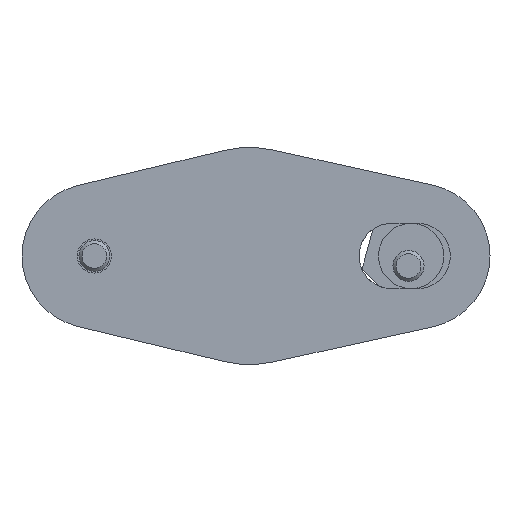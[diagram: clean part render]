
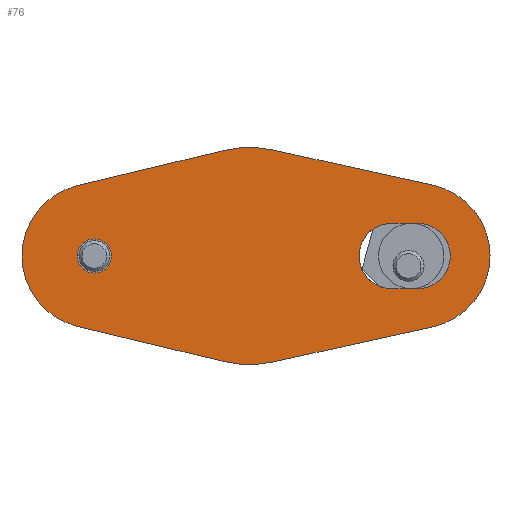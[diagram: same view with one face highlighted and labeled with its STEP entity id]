
A CAD part, front view. The second image highlights one B-rep face of the part: STEP entity #76.
In plain terms, the highlighted planar face has unit normal (0, -1, 0).
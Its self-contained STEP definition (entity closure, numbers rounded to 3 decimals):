
#76 = ADVANCED_FACE( '', ( #143, #144, #145 ), #146, .F. );
#143 = FACE_BOUND( '', #297, .T. );
#144 = FACE_BOUND( '', #298, .T. );
#145 = FACE_OUTER_BOUND( '', #299, .T. );
#146 = PLANE( '', #300 );
#297 = EDGE_LOOP( '', ( #459 ) );
#298 = EDGE_LOOP( '', ( #460, #461, #462, #463 ) );
#299 = EDGE_LOOP( '', ( #464, #465, #466, #467, #468, #469, #470, #471 ) );
#300 = AXIS2_PLACEMENT_3D( '', #472, #473, #474 );
#459 = ORIENTED_EDGE( '', *, *, #914, .T. );
#460 = ORIENTED_EDGE( '', *, *, #915, .T. );
#461 = ORIENTED_EDGE( '', *, *, #916, .T. );
#462 = ORIENTED_EDGE( '', *, *, #917, .T. );
#463 = ORIENTED_EDGE( '', *, *, #918, .T. );
#464 = ORIENTED_EDGE( '', *, *, #919, .F. );
#465 = ORIENTED_EDGE( '', *, *, #920, .F. );
#466 = ORIENTED_EDGE( '', *, *, #921, .F. );
#467 = ORIENTED_EDGE( '', *, *, #922, .F. );
#468 = ORIENTED_EDGE( '', *, *, #923, .F. );
#469 = ORIENTED_EDGE( '', *, *, #924, .F. );
#470 = ORIENTED_EDGE( '', *, *, #925, .F. );
#471 = ORIENTED_EDGE( '', *, *, #926, .F. );
#472 = CARTESIAN_POINT( '', ( -30., 0., 0. ) );
#473 = DIRECTION( '', ( 0., 1., 0. ) );
#474 = DIRECTION( '', ( 0., 0., 1. ) );
#914 = EDGE_CURVE( '', #1055, #1055, #1056, .T. );
#915 = EDGE_CURVE( '', #1057, #1058, #1059, .T. );
#916 = EDGE_CURVE( '', #1058, #1060, #1061, .T. );
#917 = EDGE_CURVE( '', #1060, #1062, #1063, .T. );
#918 = EDGE_CURVE( '', #1062, #1057, #1064, .T. );
#919 = EDGE_CURVE( '', #1065, #1066, #1067, .T. );
#920 = EDGE_CURVE( '', #1068, #1065, #1069, .T. );
#921 = EDGE_CURVE( '', #1070, #1068, #1071, .T. );
#922 = EDGE_CURVE( '', #1072, #1070, #1073, .T. );
#923 = EDGE_CURVE( '', #1074, #1072, #1075, .T. );
#924 = EDGE_CURVE( '', #1076, #1074, #1077, .T. );
#925 = EDGE_CURVE( '', #1078, #1076, #1079, .T. );
#926 = EDGE_CURVE( '', #1066, #1078, #1080, .T. );
#1055 = VERTEX_POINT( '', #1287 );
#1056 = CIRCLE( '', #1288, 3.3 );
#1057 = VERTEX_POINT( '', #1289 );
#1058 = VERTEX_POINT( '', #1290 );
#1059 = LINE( '', #1291, #1292 );
#1060 = VERTEX_POINT( '', #1293 );
#1061 = CIRCLE( '', #1294, 6.325 );
#1062 = VERTEX_POINT( '', #1295 );
#1063 = LINE( '', #1296, #1297 );
#1064 = CIRCLE( '', #1298, 6.325 );
#1065 = VERTEX_POINT( '', #1299 );
#1066 = VERTEX_POINT( '', #1300 );
#1067 = LINE( '', #1301, #1302 );
#1068 = VERTEX_POINT( '', #1303 );
#1069 = CIRCLE( '', #1304, 21. );
#1070 = VERTEX_POINT( '', #1305 );
#1071 = LINE( '', #1306, #1307 );
#1072 = VERTEX_POINT( '', #1308 );
#1073 = CIRCLE( '', #1309, 14. );
#1074 = VERTEX_POINT( '', #1310 );
#1075 = LINE( '', #1311, #1312 );
#1076 = VERTEX_POINT( '', #1313 );
#1077 = CIRCLE( '', #1314, 21. );
#1078 = VERTEX_POINT( '', #1315 );
#1079 = LINE( '', #1316, #1317 );
#1080 = CIRCLE( '', #1318, 14. );
#1287 = CARTESIAN_POINT( '', ( -26.7, 0., 0. ) );
#1288 = AXIS2_PLACEMENT_3D( '', #1609, #1610, #1611 );
#1289 = CARTESIAN_POINT( '', ( 32.5, 0., -6.325 ) );
#1290 = CARTESIAN_POINT( '', ( 27.5, 0., -6.325 ) );
#1291 = CARTESIAN_POINT( '', ( 32.5, 0., -6.325 ) );
#1292 = VECTOR( '', #1612, 1000. );
#1293 = CARTESIAN_POINT( '', ( 27.5, 0., 6.325 ) );
#1294 = AXIS2_PLACEMENT_3D( '', #1613, #1614, #1615 );
#1295 = CARTESIAN_POINT( '', ( 32.5, 0., 6.325 ) );
#1296 = CARTESIAN_POINT( '', ( 27.5, 0., 6.325 ) );
#1297 = VECTOR( '', #1616, 1000. );
#1298 = AXIS2_PLACEMENT_3D( '', #1617, #1618, #1619 );
#1299 = CARTESIAN_POINT( '', ( -4.9, 0., -20.42 ) );
#1300 = CARTESIAN_POINT( '', ( -33.267, 0., -13.614 ) );
#1301 = CARTESIAN_POINT( '', ( -4.9, 0., -20.42 ) );
#1302 = VECTOR( '', #1620, 1000. );
#1303 = CARTESIAN_POINT( '', ( 4.523, 0., -20.507 ) );
#1304 = AXIS2_PLACEMENT_3D( '', #1621, #1622, #1623 );
#1305 = CARTESIAN_POINT( '', ( 35.515, 0., -13.671 ) );
#1306 = CARTESIAN_POINT( '', ( 35.515, 0., -13.671 ) );
#1307 = VECTOR( '', #1624, 1000. );
#1308 = CARTESIAN_POINT( '', ( 35.515, 0., 13.671 ) );
#1309 = AXIS2_PLACEMENT_3D( '', #1625, #1626, #1627 );
#1310 = CARTESIAN_POINT( '', ( 4.523, 0., 20.507 ) );
#1311 = CARTESIAN_POINT( '', ( 4.523, 0., 20.507 ) );
#1312 = VECTOR( '', #1628, 1000. );
#1313 = CARTESIAN_POINT( '', ( -4.9, 0., 20.42 ) );
#1314 = AXIS2_PLACEMENT_3D( '', #1629, #1630, #1631 );
#1315 = CARTESIAN_POINT( '', ( -33.267, 0., 13.614 ) );
#1316 = CARTESIAN_POINT( '', ( -33.267, 0., 13.614 ) );
#1317 = VECTOR( '', #1632, 1000. );
#1318 = AXIS2_PLACEMENT_3D( '', #1633, #1634, #1635 );
#1609 = CARTESIAN_POINT( '', ( -30., 0., 0. ) );
#1610 = DIRECTION( '', ( 0., 1., 0. ) );
#1611 = DIRECTION( '', ( 1., 0., 0. ) );
#1612 = DIRECTION( '', ( -1., 0., 0. ) );
#1613 = CARTESIAN_POINT( '', ( 27.5, 0., 0. ) );
#1614 = DIRECTION( '', ( 0., 1., 0. ) );
#1615 = DIRECTION( '', ( 1., 0., 0. ) );
#1616 = DIRECTION( '', ( 1., 0., 0. ) );
#1617 = CARTESIAN_POINT( '', ( 32.5, 0., 0. ) );
#1618 = DIRECTION( '', ( 0., 1., 0. ) );
#1619 = DIRECTION( '', ( 1., 0., 0. ) );
#1620 = DIRECTION( '', ( -0.972, 0., 0.233 ) );
#1621 = CARTESIAN_POINT( '', ( 0., 0., 0. ) );
#1622 = DIRECTION( '', ( 0., 1., 0. ) );
#1623 = DIRECTION( '', ( 1., 0., 0. ) );
#1624 = DIRECTION( '', ( -0.977, 0., -0.215 ) );
#1625 = CARTESIAN_POINT( '', ( 32.5, 0., 0. ) );
#1626 = DIRECTION( '', ( 0., 1., 0. ) );
#1627 = DIRECTION( '', ( 1., 0., 0. ) );
#1628 = DIRECTION( '', ( 0.977, 0., -0.215 ) );
#1629 = CARTESIAN_POINT( '', ( 0., 0., 0. ) );
#1630 = DIRECTION( '', ( 0., 1., 0. ) );
#1631 = DIRECTION( '', ( 1., 0., 0. ) );
#1632 = DIRECTION( '', ( 0.972, 0., 0.233 ) );
#1633 = CARTESIAN_POINT( '', ( -30., 0., 0. ) );
#1634 = DIRECTION( '', ( 0., 1., 0. ) );
#1635 = DIRECTION( '', ( 1., 0., 0. ) );
